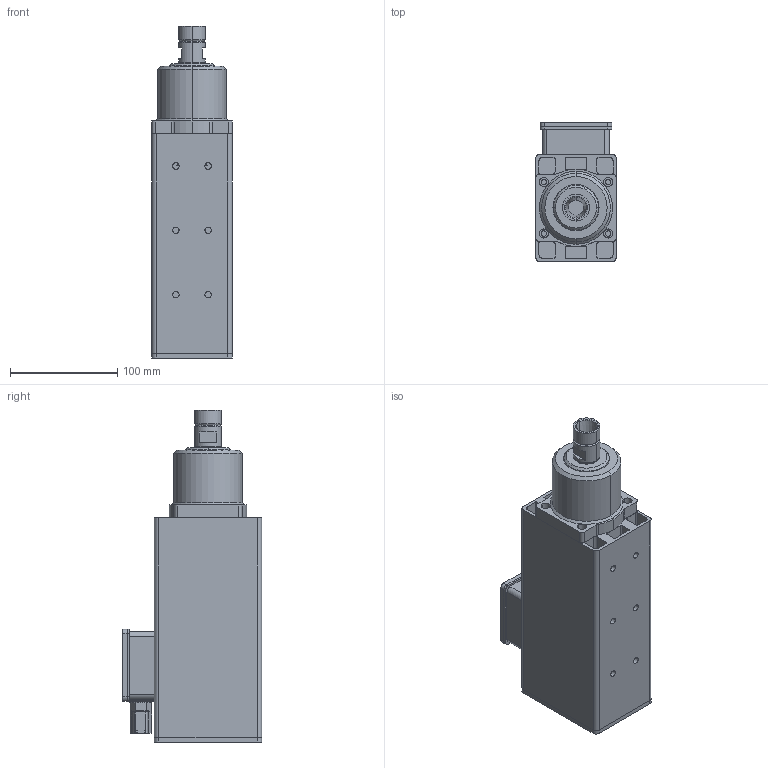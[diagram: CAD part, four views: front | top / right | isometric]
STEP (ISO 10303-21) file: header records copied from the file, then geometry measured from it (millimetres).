
FILE_DESCRIPTION (( 'STEP AP203' ), '1' );
FILE_NAME ('ARFM.2K-M ÇÝFT BÝLYALI ER20.STEP', '2020-06-26T08:25:44', ( '' ), ( '' ), 'SwSTEP 2.0', 'SolidWorks 2014', '' );
FILE_SCHEMA (( 'CONFIG_CONTROL_DESIGN' ));
Length unit declared in the file: millimetre
Products named in the file (10): pg 9 týrnaklý; Arfm.2k Hava Kapak; arfm.2y rotor mili ER 20; klemens kutusu; Arfm.2k-m gövde; Klemens Kutusu; ARFM.2K-M  ÇÝFT BÝLYALI ER20; klemens kutusu kapaðý; Arfm.2k Toz Kapak; Arfm.2k Ön Kapak Çift Bilyalý
Assembly tree (9 placements, depth 3):
  ARFM.2K-M  ÇÝFT BÝLYALI ER20
    Arfm.2k-m gövde
    Arfm.2k Toz Kapak
    Arfm.2k Hava Kapak
    Klemens Kutusu
      klemens kutusu
      klemens kutusu kapaðý
      pg 9 týrnaklý
    Arfm.2k Ön Kapak Çift Bilyalý
    arfm.2y rotor mili ER 20
Bounding box: 75 x 130 x 309.5 mm (x, y, z)
Volume: 826421.8 mm3; surface area: 289943.2 mm2
Topology: 8 solids, 8 shells, 476 faces, 1248 edges, 824 vertices
Faces by surface type: plane 232, cylinder 223, cone 10, torus 6, bspline 5
Entity records: 16472 total; most frequent: CARTESIAN_POINT 3116, DIRECTION 2652, ORIENTED_EDGE 2496, EDGE_CURVE 1248, AXIS2_PLACEMENT_3D 956, VERTEX_POINT 824, LINE 740, VECTOR 740
